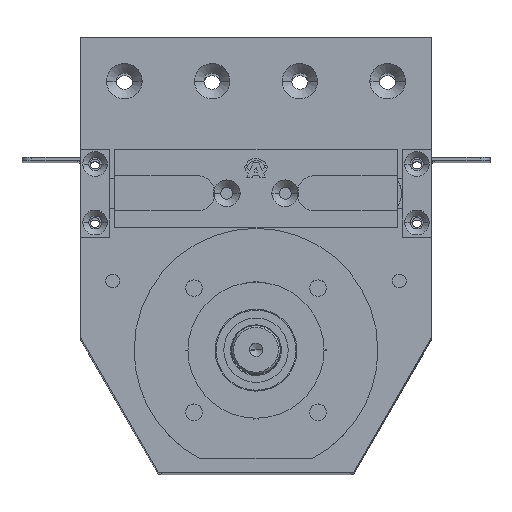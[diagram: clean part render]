
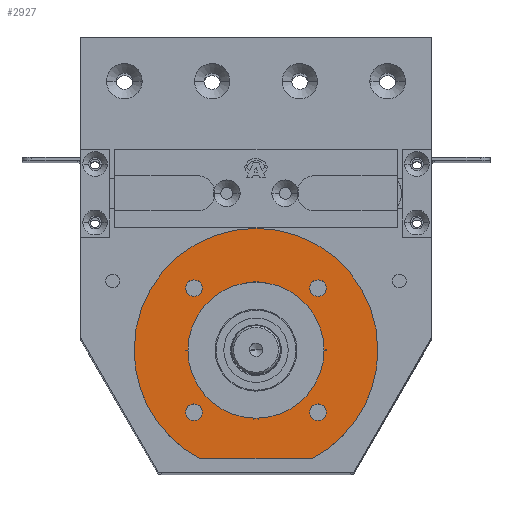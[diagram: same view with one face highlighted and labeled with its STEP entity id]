
A CAD part, top view. The second image highlights one B-rep face of the part: STEP entity #2927.
In plain terms, the highlighted planar face has unit normal (0, 0, 1) as drawn and (-1, 0, 0) by its records, which use the part's own axes.
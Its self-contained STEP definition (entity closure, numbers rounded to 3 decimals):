
#159 = CIRCLE ( 'NONE', #5713, 62.5 ) ;
#341 = DIRECTION ( 'NONE',  ( 0., 0., -1. ) ) ;
#366 = CIRCLE ( 'NONE', #16451, 34.9 ) ;
#724 = PLANE ( 'NONE',  #11772 ) ;
#1397 = VERTEX_POINT ( 'NONE', #16790 ) ;
#1804 = FACE_BOUND ( 'NONE', #19519, .T. ) ;
#1921 = AXIS2_PLACEMENT_3D ( 'NONE', #18779, #9660, #19098 ) ;
#1948 = ORIENTED_EDGE ( 'NONE', *, *, #7988, .T. ) ;
#2449 = DIRECTION ( 'NONE',  ( 1., 0., 0. ) ) ;
#2779 = CARTESIAN_POINT ( 'NONE',  ( 2., 31.82, -31.82 ) ) ;
#2927 = ADVANCED_FACE ( 'NONE', ( #16384, #14376, #12073, #19268, #1804, #10340 ), #724, .F. ) ;
#2975 = CIRCLE ( 'NONE', #19942, 4.25 ) ;
#3067 = EDGE_LOOP ( 'NONE', ( #19687, #12047 ) ) ;
#3389 = CIRCLE ( 'NONE', #16334, 4.25 ) ;
#4040 = DIRECTION ( 'NONE',  ( 1., 0., 0. ) ) ;
#4189 = EDGE_CURVE ( 'NONE', #10136, #21443, #16612, .T. ) ;
#4206 = CARTESIAN_POINT ( 'NONE',  ( 2., 31.82, 31.82 ) ) ;
#4239 = VERTEX_POINT ( 'NONE', #5148 ) ;
#4467 = CARTESIAN_POINT ( 'NONE',  ( 2., 0., 34.9 ) ) ;
#4573 = DIRECTION ( 'NONE',  ( -1., 0., 0. ) ) ;
#4619 = DIRECTION ( 'NONE',  ( 1., 0., 0. ) ) ;
#4714 = CARTESIAN_POINT ( 'NONE',  ( 2., -31.82, -31.82 ) ) ;
#4736 = DIRECTION ( 'NONE',  ( 0., 0., 1. ) ) ;
#4751 = DIRECTION ( 'NONE',  ( 0., 0., 1. ) ) ;
#4753 = ORIENTED_EDGE ( 'NONE', *, *, #11040, .T. ) ;
#4780 = DIRECTION ( 'NONE',  ( 1., 0., 0. ) ) ;
#4797 = CARTESIAN_POINT ( 'NONE',  ( 2., -31.82, 27.57 ) ) ;
#4842 = CARTESIAN_POINT ( 'NONE',  ( 2., 0., -62.5 ) ) ;
#4897 = CARTESIAN_POINT ( 'NONE',  ( 2., 31.82, 36.07 ) ) ;
#5148 = CARTESIAN_POINT ( 'NONE',  ( 2., 31.82, -27.57 ) ) ;
#5160 = AXIS2_PLACEMENT_3D ( 'NONE', #22138, #10999, #18355 ) ;
#5261 = EDGE_CURVE ( 'NONE', #22181, #4239, #5998, .T. ) ;
#5263 = DIRECTION ( 'NONE',  ( 0., 0., 1. ) ) ;
#5397 = ORIENTED_EDGE ( 'NONE', *, *, #11035, .T. ) ;
#5713 = AXIS2_PLACEMENT_3D ( 'NONE', #11818, #4573, #4736 ) ;
#5741 = CIRCLE ( 'NONE', #21213, 4.25 ) ;
#5817 = DIRECTION ( 'NONE',  ( 1., 0., 0. ) ) ;
#5998 = CIRCLE ( 'NONE', #17042, 4.25 ) ;
#6036 = DIRECTION ( 'NONE',  ( 0., 0., -1. ) ) ;
#6213 = VERTEX_POINT ( 'NONE', #17289 ) ;
#6394 = DIRECTION ( 'NONE',  ( 0., 0., -1. ) ) ;
#6513 = ORIENTED_EDGE ( 'NONE', *, *, #14607, .F. ) ;
#6879 = VERTEX_POINT ( 'NONE', #4467 ) ;
#7897 = AXIS2_PLACEMENT_3D ( 'NONE', #13449, #11608, #9862 ) ;
#7988 = EDGE_CURVE ( 'NONE', #8032, #1397, #20933, .T. ) ;
#8032 = VERTEX_POINT ( 'NONE', #4797 ) ;
#8080 = ORIENTED_EDGE ( 'NONE', *, *, #22925, .T. ) ;
#8099 = EDGE_CURVE ( 'NONE', #14973, #21443, #17494, .T. ) ;
#8376 = DIRECTION ( 'NONE',  ( 1., 0., 0. ) ) ;
#8412 = EDGE_CURVE ( 'NONE', #6213, #6879, #19202, .T. ) ;
#8602 = ORIENTED_EDGE ( 'NONE', *, *, #4189, .T. ) ;
#8824 = CARTESIAN_POINT ( 'NONE',  ( 2., 31.82, 27.57 ) ) ;
#9014 = CARTESIAN_POINT ( 'NONE',  ( 2., -55.5, -28.74 ) ) ;
#9470 = DIRECTION ( 'NONE',  ( -1., 0., 0. ) ) ;
#9660 = DIRECTION ( 'NONE',  ( 1., 0., 0. ) ) ;
#9862 = DIRECTION ( 'NONE',  ( 0., 0., -1. ) ) ;
#9951 = ORIENTED_EDGE ( 'NONE', *, *, #21359, .T. ) ;
#10003 = CIRCLE ( 'NONE', #7897, 4.25 ) ;
#10136 = VERTEX_POINT ( 'NONE', #4842 ) ;
#10340 = FACE_OUTER_BOUND ( 'NONE', #14521, .T. ) ;
#10358 = DIRECTION ( 'NONE',  ( 0., 0., -1. ) ) ;
#10427 = CARTESIAN_POINT ( 'NONE',  ( 2., -31.82, 31.82 ) ) ;
#10677 = CARTESIAN_POINT ( 'NONE',  ( 2., 0., 0. ) ) ;
#10999 = DIRECTION ( 'NONE',  ( -1., 0., 0. ) ) ;
#11035 = EDGE_CURVE ( 'NONE', #14973, #20069, #20149, .T. ) ;
#11040 = EDGE_CURVE ( 'NONE', #18684, #22625, #2975, .T. ) ;
#11303 = DIRECTION ( 'NONE',  ( 0., 0., -1. ) ) ;
#11608 = DIRECTION ( 'NONE',  ( 1., 0., 0. ) ) ;
#11772 = AXIS2_PLACEMENT_3D ( 'NONE', #16900, #2449, #6036 ) ;
#11818 = CARTESIAN_POINT ( 'NONE',  ( 2., 0., 0. ) ) ;
#11855 = EDGE_LOOP ( 'NONE', ( #18536, #8080 ) ) ;
#11980 = AXIS2_PLACEMENT_3D ( 'NONE', #10427, #4780, #17708 ) ;
#12047 = ORIENTED_EDGE ( 'NONE', *, *, #20145, .T. ) ;
#12073 = FACE_BOUND ( 'NONE', #3067, .T. ) ;
#12180 = DIRECTION ( 'NONE',  ( 0., 0., -1. ) ) ;
#12223 = ORIENTED_EDGE ( 'NONE', *, *, #14480, .T. ) ;
#12322 = CARTESIAN_POINT ( 'NONE',  ( 2., 31.82, -36.07 ) ) ;
#12663 = EDGE_CURVE ( 'NONE', #20069, #10136, #159, .T. ) ;
#12729 = DIRECTION ( 'NONE',  ( -1., 0., 0. ) ) ;
#12740 = CARTESIAN_POINT ( 'NONE',  ( 2., 0., 62.5 ) ) ;
#13041 = CARTESIAN_POINT ( 'NONE',  ( 2., -31.82, -31.82 ) ) ;
#13289 = VERTEX_POINT ( 'NONE', #8824 ) ;
#13316 = AXIS2_PLACEMENT_3D ( 'NONE', #14891, #9470, #18657 ) ;
#13449 = CARTESIAN_POINT ( 'NONE',  ( 2., 31.82, 31.82 ) ) ;
#13650 = ORIENTED_EDGE ( 'NONE', *, *, #8412, .F. ) ;
#13921 = VERTEX_POINT ( 'NONE', #4897 ) ;
#13989 = CARTESIAN_POINT ( 'NONE',  ( 2., 0., 0. ) ) ;
#14376 = FACE_BOUND ( 'NONE', #23474, .T. ) ;
#14393 = CARTESIAN_POINT ( 'NONE',  ( 2., -55.5, 28.74 ) ) ;
#14480 = EDGE_CURVE ( 'NONE', #1397, #8032, #19286, .T. ) ;
#14521 = EDGE_LOOP ( 'NONE', ( #5397, #17650, #8602, #21090 ) ) ;
#14607 = EDGE_CURVE ( 'NONE', #6879, #6213, #366, .T. ) ;
#14891 = CARTESIAN_POINT ( 'NONE',  ( 2., 0., 0. ) ) ;
#14973 = VERTEX_POINT ( 'NONE', #14393 ) ;
#15678 = DIRECTION ( 'NONE',  ( -1., 0., 0. ) ) ;
#16334 = AXIS2_PLACEMENT_3D ( 'NONE', #4714, #8376, #10358 ) ;
#16351 = VECTOR ( 'NONE', #6394, 1000. ) ;
#16384 = FACE_BOUND ( 'NONE', #19330, .T. ) ;
#16451 = AXIS2_PLACEMENT_3D ( 'NONE', #10677, #12729, #5263 ) ;
#16612 = CIRCLE ( 'NONE', #21928, 62.5 ) ;
#16790 = CARTESIAN_POINT ( 'NONE',  ( 2., -31.82, 36.07 ) ) ;
#16830 = DIRECTION ( 'NONE',  ( 0., 0., -1. ) ) ;
#16900 = CARTESIAN_POINT ( 'NONE',  ( 2., 62.5, 0. ) ) ;
#17042 = AXIS2_PLACEMENT_3D ( 'NONE', #2779, #4619, #11303 ) ;
#17289 = CARTESIAN_POINT ( 'NONE',  ( 2., 0., -34.9 ) ) ;
#17494 = LINE ( 'NONE', #22959, #16351 ) ;
#17650 = ORIENTED_EDGE ( 'NONE', *, *, #12663, .T. ) ;
#17708 = DIRECTION ( 'NONE',  ( 0., 0., -1. ) ) ;
#17872 = CARTESIAN_POINT ( 'NONE',  ( 2., 31.82, -31.82 ) ) ;
#18355 = DIRECTION ( 'NONE',  ( 0., 0., 1. ) ) ;
#18536 = ORIENTED_EDGE ( 'NONE', *, *, #5261, .T. ) ;
#18657 = DIRECTION ( 'NONE',  ( 0., 0., 1. ) ) ;
#18684 = VERTEX_POINT ( 'NONE', #22260 ) ;
#18779 = CARTESIAN_POINT ( 'NONE',  ( 2., -31.82, 31.82 ) ) ;
#19088 = CARTESIAN_POINT ( 'NONE',  ( 2., -31.82, -36.07 ) ) ;
#19098 = DIRECTION ( 'NONE',  ( 0., 0., -1. ) ) ;
#19202 = CIRCLE ( 'NONE', #5160, 34.9 ) ;
#19268 = FACE_BOUND ( 'NONE', #11855, .T. ) ;
#19286 = CIRCLE ( 'NONE', #11980, 4.25 ) ;
#19330 = EDGE_LOOP ( 'NONE', ( #9951, #4753 ) ) ;
#19519 = EDGE_LOOP ( 'NONE', ( #6513, #13650 ) ) ;
#19687 = ORIENTED_EDGE ( 'NONE', *, *, #20303, .T. ) ;
#19726 = AXIS2_PLACEMENT_3D ( 'NONE', #17872, #19729, #12180 ) ;
#19729 = DIRECTION ( 'NONE',  ( 1., 0., 0. ) ) ;
#19942 = AXIS2_PLACEMENT_3D ( 'NONE', #13041, #4040, #341 ) ;
#20069 = VERTEX_POINT ( 'NONE', #12740 ) ;
#20145 = EDGE_CURVE ( 'NONE', #13921, #13289, #5741, .T. ) ;
#20149 = CIRCLE ( 'NONE', #13316, 62.5 ) ;
#20303 = EDGE_CURVE ( 'NONE', #13289, #13921, #10003, .T. ) ;
#20933 = CIRCLE ( 'NONE', #1921, 4.25 ) ;
#21090 = ORIENTED_EDGE ( 'NONE', *, *, #8099, .F. ) ;
#21213 = AXIS2_PLACEMENT_3D ( 'NONE', #4206, #5817, #16830 ) ;
#21359 = EDGE_CURVE ( 'NONE', #22625, #18684, #3389, .T. ) ;
#21443 = VERTEX_POINT ( 'NONE', #9014 ) ;
#21526 = CIRCLE ( 'NONE', #19726, 4.25 ) ;
#21928 = AXIS2_PLACEMENT_3D ( 'NONE', #13989, #15678, #4751 ) ;
#22138 = CARTESIAN_POINT ( 'NONE',  ( 2., 0., 0. ) ) ;
#22181 = VERTEX_POINT ( 'NONE', #12322 ) ;
#22260 = CARTESIAN_POINT ( 'NONE',  ( 2., -31.82, -27.57 ) ) ;
#22625 = VERTEX_POINT ( 'NONE', #19088 ) ;
#22925 = EDGE_CURVE ( 'NONE', #4239, #22181, #21526, .T. ) ;
#22959 = CARTESIAN_POINT ( 'NONE',  ( 2., -55.5, 28.74 ) ) ;
#23474 = EDGE_LOOP ( 'NONE', ( #1948, #12223 ) ) ;
